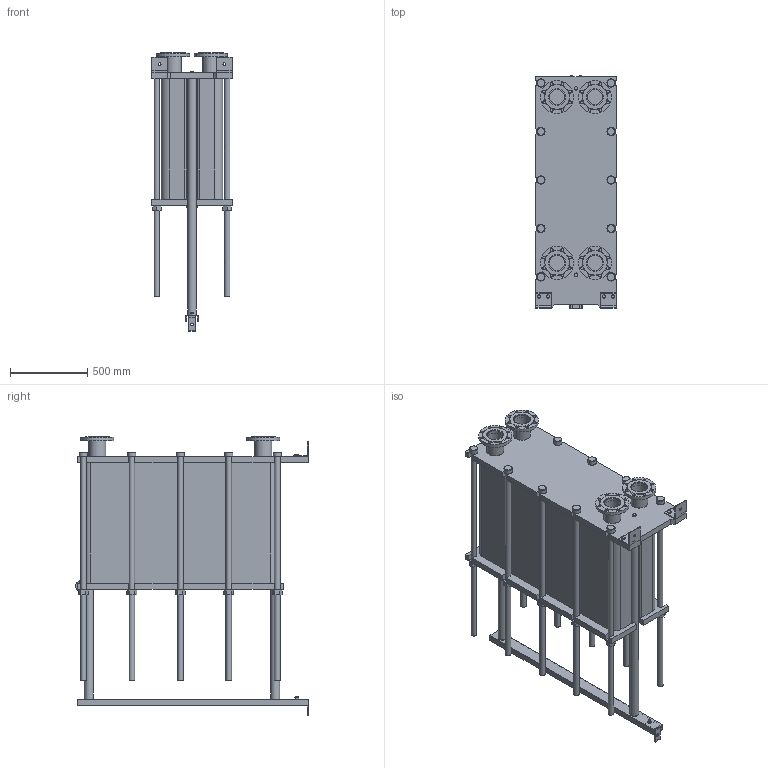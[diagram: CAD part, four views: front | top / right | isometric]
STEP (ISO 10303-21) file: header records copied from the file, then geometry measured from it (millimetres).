
FILE_DESCRIPTION(/* description */ (''),/* implementation_level */ '2;1');
FILE_NAME(/* name */ 'C:\Users\zhuro\Desktop\ENCO\TO\ЭН-04\ЭН-0,5-04-226-1.stp',/* time_stamp */ '2022-06-06T11:05:26+03:00',/* author */ ('zhuro'),/* organization */ (''),/* preprocessor_version */ 'ST-DEVELOPER v18.1',/* originating_system */ 'Autodesk Inventor 2022',/* authorisation */ '');
FILE_SCHEMA (('AUTOMOTIVE_DESIGN { 1 0 10303 214 3 1 1 }'));
Length unit declared in the file: millimetre
Products named in the file (1): ЭН-0,5-04-226-1
Bounding box: 520 x 1510 x 1808 mm (x, y, z)
Volume: 467648435.9 mm3; surface area: 11126013.9 mm2
Topology: 45 solids, 45 shells, 668 faces, 1611 edges, 1048 vertices
Faces by surface type: plane 457, cylinder 166, cone 39, torus 6
Full cylindrical faces by diameter (mm): 8 x4, 10 x2, 16 x8, 18 x35, 36 x25, 40 x2, 42 x1, 45 x4, 54 x10, 57 x2, 60 x10, 68 x2, 100 x4, 110 x8, 215 x4
Entity records: 23607 total; most frequent: CARTESIAN_POINT 7348, DIRECTION 3371, ORIENTED_EDGE 3142, EDGE_CURVE 1571, AXIS2_PLACEMENT_3D 1199, VERTEX_POINT 1044, LINE 973, VECTOR 973
